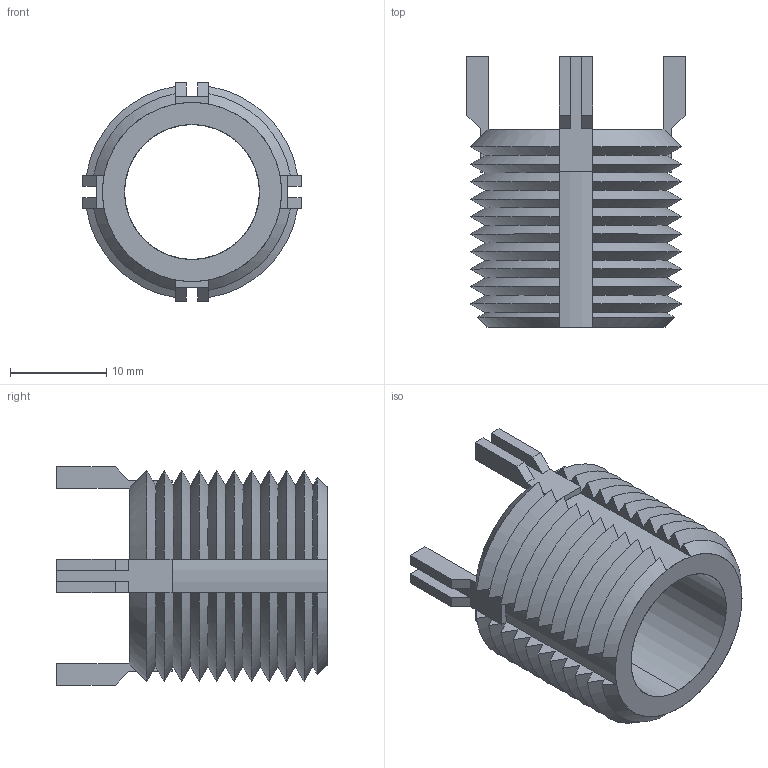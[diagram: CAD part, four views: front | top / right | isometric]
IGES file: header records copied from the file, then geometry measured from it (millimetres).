
Start section: SolidWorks IGES file using analytic representation for surfaces
Global section: file name: C:\Users\IanO\Desktop\TR1530_v2\TR1530_v2_20230501_IGES\TR1530.66648.igs; native system: SolidWorks 2019; preprocessor: SolidWorks 2019; author: IanO; date: 230502.140422; units: millimetre
Bounding box: 22.66 x 28.13 x 22.66 mm (x, y, z)
Surface area: 4020.7 mm2 (no closed solid volume)
Topology: 0 solids, 0 shells, 184 faces, 1104 edges, 1104 vertices
Faces by surface type: revolution 94, bspline 90
